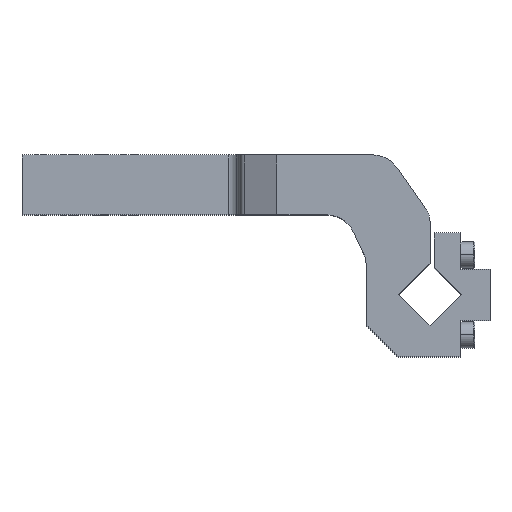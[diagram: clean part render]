
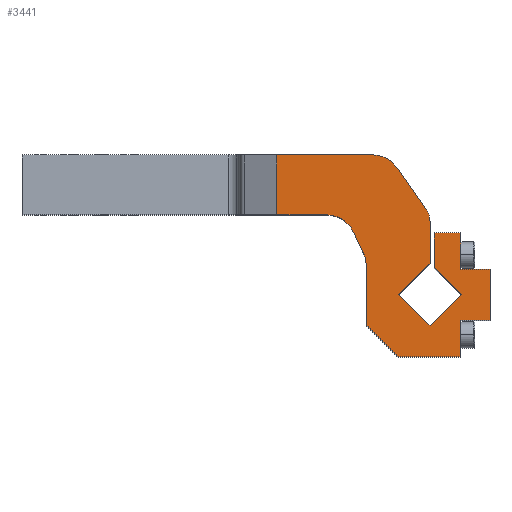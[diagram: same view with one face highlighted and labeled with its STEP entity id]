
A CAD part, top view. The second image highlights one B-rep face of the part: STEP entity #3441.
In plain terms, the highlighted planar face has unit normal (0, 0, 1).
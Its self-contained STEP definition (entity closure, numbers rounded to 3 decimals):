
#275=CARTESIAN_POINT('',(18.2,53.229,3.));
#276=VERTEX_POINT('',#275);
#285=CARTESIAN_POINT('',(18.662,50.222,3.));
#286=VERTEX_POINT('',#285);
#287=CARTESIAN_POINT('',(8.662,50.222,3.));
#288=DIRECTION('',(0.0,0.0,-1.0));
#289=DIRECTION('',(1.0,0.0,0.0));
#290=AXIS2_PLACEMENT_3D('',#287,#288,#289);
#291=CIRCLE('',#290,10.0);
#292=EDGE_CURVE('',#276,#286,#291,.T.);
#1057=CARTESIAN_POINT('',(18.662,-2.182,3.));
#1058=VERTEX_POINT('',#1057);
#1067=CARTESIAN_POINT('',(18.662,-2.181,3.));
#1068=VERTEX_POINT('',#1067);
#1069=CARTESIAN_POINT('',(18.662,-2.182,3.));
#1070=DIRECTION('',(0.0,1.0,0.));
#1071=VECTOR('',#1070,0.);
#1072=LINE('',#1069,#1071);
#1073=EDGE_CURVE('',#1058,#1068,#1072,.T.);
#1621=CARTESIAN_POINT('',(20.662,26.931,3.));
#1622=VERTEX_POINT('',#1621);
#1631=CARTESIAN_POINT('',(20.662,44.375,3.));
#1632=VERTEX_POINT('',#1631);
#1633=CARTESIAN_POINT('',(20.662,44.375,3.));
#1634=DIRECTION('',(0.0,-1.0,0.0));
#1635=VECTOR('',#1634,17.444);
#1636=LINE('',#1633,#1635);
#1637=EDGE_CURVE('',#1632,#1622,#1636,.T.);
#1680=CARTESIAN_POINT('',(34.218,13.375,3.));
#1681=VERTEX_POINT('',#1680);
#1688=CARTESIAN_POINT('',(34.218,13.375,3.));
#1689=DIRECTION('',(-0.707,0.707,0.));
#1690=VECTOR('',#1689,19.171);
#1691=LINE('',#1688,#1690);
#1692=EDGE_CURVE('',#1681,#1622,#1691,.T.);
#1736=CARTESIAN_POINT('',(34.162,44.375,3.));
#1737=VERTEX_POINT('',#1736);
#1738=CARTESIAN_POINT('',(20.662,44.375,3.));
#1739=DIRECTION('',(1.0,0.0,0.0));
#1740=VECTOR('',#1739,13.5);
#1741=LINE('',#1738,#1740);
#1742=EDGE_CURVE('',#1632,#1737,#1741,.T.);
#1766=CARTESIAN_POINT('',(34.162,26.125,3.));
#1767=VERTEX_POINT('',#1766);
#1768=CARTESIAN_POINT('',(34.162,44.375,3.));
#1769=DIRECTION('',(0.0,-1.0,0.0));
#1770=VECTOR('',#1769,18.25);
#1771=LINE('',#1768,#1770);
#1772=EDGE_CURVE('',#1737,#1767,#1771,.T.);
#1801=CARTESIAN_POINT('',(48.662,26.125,3.));
#1802=VERTEX_POINT('',#1801);
#1803=CARTESIAN_POINT('',(34.162,26.125,3.));
#1804=DIRECTION('',(1.0,0.0,0.0));
#1805=VECTOR('',#1804,14.5);
#1806=LINE('',#1803,#1805);
#1807=EDGE_CURVE('',#1767,#1802,#1806,.T.);
#1832=CARTESIAN_POINT('',(48.662,0.625,3.));
#1833=VERTEX_POINT('',#1832);
#1834=CARTESIAN_POINT('',(48.662,26.125,3.));
#1835=DIRECTION('',(0.0,-1.0,0.0));
#1836=VECTOR('',#1835,25.5);
#1837=LINE('',#1834,#1836);
#1838=EDGE_CURVE('',#1802,#1833,#1837,.T.);
#1863=CARTESIAN_POINT('',(34.162,0.625,3.));
#1864=VERTEX_POINT('',#1863);
#1865=CARTESIAN_POINT('',(48.662,0.625,3.));
#1866=DIRECTION('',(-1.0,0.0,0.0));
#1867=VECTOR('',#1866,14.5);
#1868=LINE('',#1865,#1867);
#1869=EDGE_CURVE('',#1833,#1864,#1868,.T.);
#1894=CARTESIAN_POINT('',(34.162,-17.625,3.));
#1895=VERTEX_POINT('',#1894);
#1896=CARTESIAN_POINT('',(34.162,0.625,3.));
#1897=DIRECTION('',(0.0,-1.0,0.0));
#1898=VECTOR('',#1897,18.25);
#1899=LINE('',#1896,#1898);
#1900=EDGE_CURVE('',#1864,#1895,#1899,.T.);
#1929=CARTESIAN_POINT('',(18.662,-2.181,3.));
#1930=DIRECTION('',(0.707,0.707,0.0));
#1931=VECTOR('',#1930,22.);
#1932=LINE('',#1929,#1931);
#1933=EDGE_CURVE('',#1068,#1681,#1932,.T.);
#3262=CARTESIAN_POINT('',(-33.152,53.375,3.));
#3263=VERTEX_POINT('',#3262);
#3270=CARTESIAN_POINT('',(-57.904,53.375,3.));
#3271=VERTEX_POINT('',#3270);
#3272=CARTESIAN_POINT('',(-33.152,53.375,3.));
#3273=DIRECTION('',(-1.0,0.0,0.0));
#3274=VECTOR('',#3273,24.752);
#3275=LINE('',#3272,#3274);
#3276=EDGE_CURVE('',#3263,#3271,#3275,.T.);
#3312=CARTESIAN_POINT('',(-14.668,40.84,3.));
#3313=DIRECTION('',(0.0,0.0,1.0));
#3314=DIRECTION('',(1.0,0.0,0.0));
#3315=AXIS2_PLACEMENT_3D('',#3312,#3313,#3314);
#3316=PLANE('',#3315);
#3317=CARTESIAN_POINT('',(-57.904,83.375,3.));
#3318=VERTEX_POINT('',#3317);
#3319=CARTESIAN_POINT('',(-57.904,83.375,3.));
#3320=DIRECTION('',(0.0,-1.0,0.0));
#3321=VECTOR('',#3320,30.);
#3322=LINE('',#3319,#3321);
#3323=EDGE_CURVE('',#3318,#3271,#3322,.T.);
#3324=ORIENTED_EDGE('',*,*,#3323,.T.);
#3325=ORIENTED_EDGE('',*,*,#3276,.F.);
#3326=CARTESIAN_POINT('',(-19.558,44.714,3.));
#3327=VERTEX_POINT('',#3326);
#3328=CARTESIAN_POINT('',(-33.152,38.375,3.));
#3329=DIRECTION('',(0.,0.,1.0));
#3330=DIRECTION('',(-0.906,-0.423,0.));
#3331=AXIS2_PLACEMENT_3D('',#3328,#3329,#3330);
#3332=CIRCLE('',#3331,15.);
#3333=EDGE_CURVE('',#3327,#3263,#3332,.T.);
#3334=ORIENTED_EDGE('',*,*,#3333,.F.);
#3335=CARTESIAN_POINT('',(-14.275,33.384,3.));
#3336=VERTEX_POINT('',#3335);
#3337=CARTESIAN_POINT('',(-14.275,33.384,3.));
#3338=DIRECTION('',(-0.423,0.906,0.0));
#3339=VECTOR('',#3338,12.501);
#3340=LINE('',#3337,#3339);
#3341=EDGE_CURVE('',#3336,#3327,#3340,.T.);
#3342=ORIENTED_EDGE('',*,*,#3341,.F.);
#3343=CARTESIAN_POINT('',(-13.338,29.158,3.));
#3344=VERTEX_POINT('',#3343);
#3345=CARTESIAN_POINT('',(-23.338,29.158,3.));
#3346=DIRECTION('',(0.0,0.0,1.0));
#3347=DIRECTION('',(-1.0,0.0,0.0));
#3348=AXIS2_PLACEMENT_3D('',#3345,#3346,#3347);
#3349=CIRCLE('',#3348,10.);
#3350=EDGE_CURVE('',#3344,#3336,#3349,.T.);
#3351=ORIENTED_EDGE('',*,*,#3350,.F.);
#3352=CARTESIAN_POINT('',(-13.338,-1.625,3.));
#3353=VERTEX_POINT('',#3352);
#3354=CARTESIAN_POINT('',(-13.338,-1.625,3.));
#3355=DIRECTION('',(0.0,1.0,0.0));
#3356=VECTOR('',#3355,30.783);
#3357=LINE('',#3354,#3356);
#3358=EDGE_CURVE('',#3353,#3344,#3357,.T.);
#3359=ORIENTED_EDGE('',*,*,#3358,.F.);
#3360=CARTESIAN_POINT('',(2.662,-17.625,3.));
#3361=VERTEX_POINT('',#3360);
#3362=CARTESIAN_POINT('',(2.662,-17.625,3.));
#3363=DIRECTION('',(-0.707,0.707,0.0));
#3364=VECTOR('',#3363,22.627);
#3365=LINE('',#3362,#3364);
#3366=EDGE_CURVE('',#3361,#3353,#3365,.T.);
#3367=ORIENTED_EDGE('',*,*,#3366,.F.);
#3368=CARTESIAN_POINT('',(34.162,-17.625,3.));
#3369=DIRECTION('',(-1.0,0.0,0.0));
#3370=VECTOR('',#3369,31.5);
#3371=LINE('',#3368,#3370);
#3372=EDGE_CURVE('',#1895,#3361,#3371,.T.);
#3373=ORIENTED_EDGE('',*,*,#3372,.F.);
#3374=ORIENTED_EDGE('',*,*,#1900,.F.);
#3375=ORIENTED_EDGE('',*,*,#1869,.F.);
#3376=ORIENTED_EDGE('',*,*,#1838,.F.);
#3377=ORIENTED_EDGE('',*,*,#1807,.F.);
#3378=ORIENTED_EDGE('',*,*,#1772,.F.);
#3379=ORIENTED_EDGE('',*,*,#1742,.F.);
#3380=ORIENTED_EDGE('',*,*,#1637,.T.);
#3381=ORIENTED_EDGE('',*,*,#1692,.F.);
#3382=ORIENTED_EDGE('',*,*,#1933,.F.);
#3383=ORIENTED_EDGE('',*,*,#1073,.F.);
#3384=CARTESIAN_POINT('',(3.106,13.375,3.));
#3385=VERTEX_POINT('',#3384);
#3386=CARTESIAN_POINT('',(3.106,13.375,3.));
#3387=DIRECTION('',(0.707,-0.707,0.0));
#3388=VECTOR('',#3387,22.);
#3389=LINE('',#3386,#3388);
#3390=EDGE_CURVE('',#3385,#1058,#3389,.T.);
#3391=ORIENTED_EDGE('',*,*,#3390,.F.);
#3392=CARTESIAN_POINT('',(18.662,28.931,3.));
#3393=VERTEX_POINT('',#3392);
#3394=CARTESIAN_POINT('',(18.662,28.931,3.));
#3395=DIRECTION('',(-0.707,-0.707,0.0));
#3396=VECTOR('',#3395,22.);
#3397=LINE('',#3394,#3396);
#3398=EDGE_CURVE('',#3393,#3385,#3397,.T.);
#3399=ORIENTED_EDGE('',*,*,#3398,.F.);
#3400=CARTESIAN_POINT('',(18.662,50.222,3.));
#3401=DIRECTION('',(0.0,-1.0,0.0));
#3402=VECTOR('',#3401,21.291);
#3403=LINE('',#3400,#3402);
#3404=EDGE_CURVE('',#286,#3393,#3403,.T.);
#3405=ORIENTED_EDGE('',*,*,#3404,.F.);
#3406=ORIENTED_EDGE('',*,*,#292,.F.);
#3407=CARTESIAN_POINT('',(16.854,55.958,3.));
#3408=VERTEX_POINT('',#3407);
#3409=CARTESIAN_POINT('',(8.662,50.222,3.));
#3410=DIRECTION('',(0.0,0.0,-1.0));
#3411=DIRECTION('',(1.0,0.0,0.0));
#3412=AXIS2_PLACEMENT_3D('',#3409,#3410,#3411);
#3413=CIRCLE('',#3412,10.0);
#3414=EDGE_CURVE('',#3408,#276,#3413,.T.);
#3415=ORIENTED_EDGE('',*,*,#3414,.F.);
#3416=CARTESIAN_POINT('',(2.135,76.978,3.));
#3417=VERTEX_POINT('',#3416);
#3418=CARTESIAN_POINT('',(2.135,76.978,3.));
#3419=DIRECTION('',(0.574,-0.819,0.0));
#3420=VECTOR('',#3419,25.662);
#3421=LINE('',#3418,#3420);
#3422=EDGE_CURVE('',#3417,#3408,#3421,.T.);
#3423=ORIENTED_EDGE('',*,*,#3422,.F.);
#3424=CARTESIAN_POINT('',(-10.152,83.375,3.));
#3425=VERTEX_POINT('',#3424);
#3426=CARTESIAN_POINT('',(-10.152,68.375,3.));
#3427=DIRECTION('',(0.,0.,-1.0));
#3428=DIRECTION('',(0.819,0.574,0.));
#3429=AXIS2_PLACEMENT_3D('',#3426,#3427,#3428);
#3430=CIRCLE('',#3429,15.);
#3431=EDGE_CURVE('',#3425,#3417,#3430,.T.);
#3432=ORIENTED_EDGE('',*,*,#3431,.F.);
#3433=CARTESIAN_POINT('',(-57.904,83.375,3.));
#3434=DIRECTION('',(1.0,0.0,0.0));
#3435=VECTOR('',#3434,47.752);
#3436=LINE('',#3433,#3435);
#3437=EDGE_CURVE('',#3318,#3425,#3436,.T.);
#3438=ORIENTED_EDGE('',*,*,#3437,.F.);
#3439=EDGE_LOOP('',(#3324,#3325,#3334,#3342,#3351,#3359,#3367,#3373,#3374,#3375,#3376,#3377,#3378,#3379,#3380,#3381,#3382,#3383,#3391,#3399,#3405,#3406,#3415,#3423,#3432,#3438));
#3440=FACE_OUTER_BOUND('',#3439,.T.);
#3441=ADVANCED_FACE('',(#3440),#3316,.T.);
